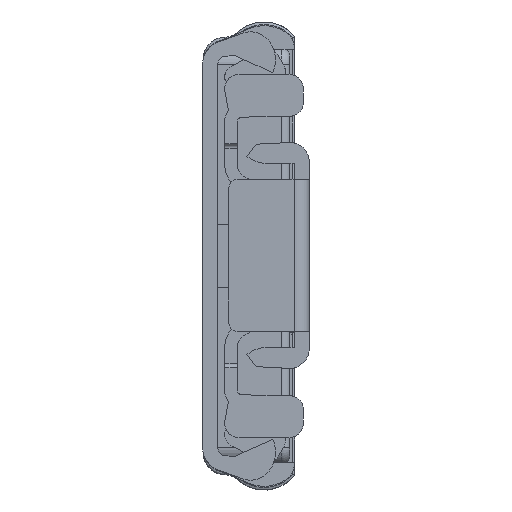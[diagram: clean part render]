
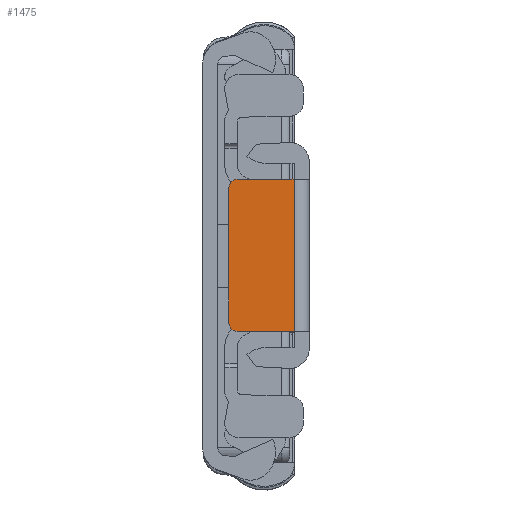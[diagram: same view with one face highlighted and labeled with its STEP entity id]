
A CAD part, front view. The second image highlights one B-rep face of the part: STEP entity #1475.
In plain terms, the highlighted planar face has unit normal (0, -1, 0).
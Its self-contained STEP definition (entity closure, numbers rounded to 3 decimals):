
#1475 = ADVANCED_FACE( '', ( #3187 ), #3188, .T. );
#3187 = FACE_OUTER_BOUND( '', #5232, .T. );
#3188 = PLANE( '', #5233 );
#5232 = EDGE_LOOP( '', ( #9304, #9305, #9306, #9307, #9308, #9309 ) );
#5233 = AXIS2_PLACEMENT_3D( '', #9310, #9311, #9312 );
#9304 = ORIENTED_EDGE( '', *, *, #12082, .T. );
#9305 = ORIENTED_EDGE( '', *, *, #12498, .T. );
#9306 = ORIENTED_EDGE( '', *, *, #12897, .T. );
#9307 = ORIENTED_EDGE( '', *, *, #13694, .T. );
#9308 = ORIENTED_EDGE( '', *, *, #13695, .T. );
#9309 = ORIENTED_EDGE( '', *, *, #13696, .T. );
#9310 = CARTESIAN_POINT( '', ( -9., -425.302, -2.366 ) );
#9311 = DIRECTION( '', ( 0., -1., 0. ) );
#9312 = DIRECTION( '', ( 0., 0., -1. ) );
#12082 = EDGE_CURVE( '', #14454, #14452, #14455, .T. );
#12498 = EDGE_CURVE( '', #14452, #15175, #15176, .T. );
#12897 = EDGE_CURVE( '', #15175, #15833, #15834, .T. );
#13694 = EDGE_CURVE( '', #15833, #17035, #17036, .T. );
#13695 = EDGE_CURVE( '', #17035, #17037, #17038, .T. );
#13696 = EDGE_CURVE( '', #17037, #14454, #17039, .T. );
#14452 = VERTEX_POINT( '', #17964 );
#14454 = VERTEX_POINT( '', #17967 );
#14455 = LINE( '', #17968, #17969 );
#15175 = VERTEX_POINT( '', #18944 );
#15176 = CIRCLE( '', #18945, 1. );
#15833 = VERTEX_POINT( '', #19913 );
#15834 = LINE( '', #19914, #19915 );
#17035 = VERTEX_POINT( '', #21576 );
#17036 = LINE( '', #21577, #21578 );
#17037 = VERTEX_POINT( '', #21579 );
#17038 = LINE( '', #21580, #21581 );
#17039 = CIRCLE( '', #21582, 1. );
#17964 = CARTESIAN_POINT( '', ( -8., -425.302, 5.8 ) );
#17967 = CARTESIAN_POINT( '', ( 8., -425.302, 5.8 ) );
#17968 = CARTESIAN_POINT( '', ( 9., -425.302, 5.8 ) );
#17969 = VECTOR( '', #22689, 1000. );
#18944 = CARTESIAN_POINT( '', ( -9., -425.302, 4.8 ) );
#18945 = AXIS2_PLACEMENT_3D( '', #23261, #23262, #23263 );
#19913 = CARTESIAN_POINT( '', ( -9., -425.302, -1.898 ) );
#19914 = CARTESIAN_POINT( '', ( -9., -425.302, -2.366 ) );
#19915 = VECTOR( '', #23736, 1000. );
#21576 = CARTESIAN_POINT( '', ( 9., -425.302, -1.898 ) );
#21577 = CARTESIAN_POINT( '', ( -9., -425.302, -1.898 ) );
#21578 = VECTOR( '', #24804, 1000. );
#21579 = CARTESIAN_POINT( '', ( 9., -425.302, 4.8 ) );
#21580 = CARTESIAN_POINT( '', ( 9., -425.302, -2.366 ) );
#21581 = VECTOR( '', #24805, 1000. );
#21582 = AXIS2_PLACEMENT_3D( '', #24806, #24807, #24808 );
#22689 = DIRECTION( '', ( -1., 0., 0. ) );
#23261 = CARTESIAN_POINT( '', ( -8., -425.302, 4.8 ) );
#23262 = DIRECTION( '', ( 0., -1., 0. ) );
#23263 = DIRECTION( '', ( 0., 0., -1. ) );
#23736 = DIRECTION( '', ( 0., 0., -1. ) );
#24804 = DIRECTION( '', ( 1., 0., 0. ) );
#24805 = DIRECTION( '', ( 0., 0., 1. ) );
#24806 = CARTESIAN_POINT( '', ( 8., -425.302, 4.8 ) );
#24807 = DIRECTION( '', ( 0., -1., 0. ) );
#24808 = DIRECTION( '', ( 0., 0., -1. ) );
